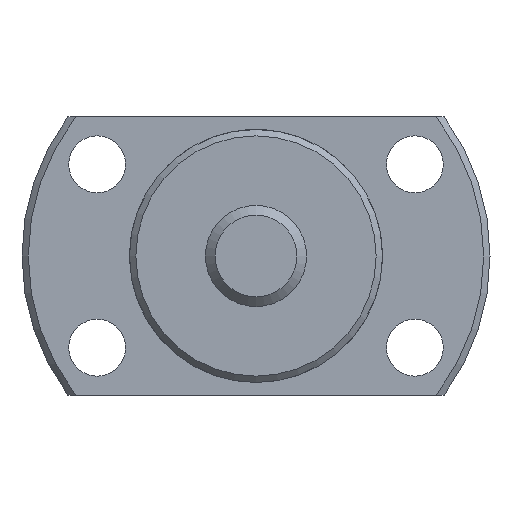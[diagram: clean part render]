
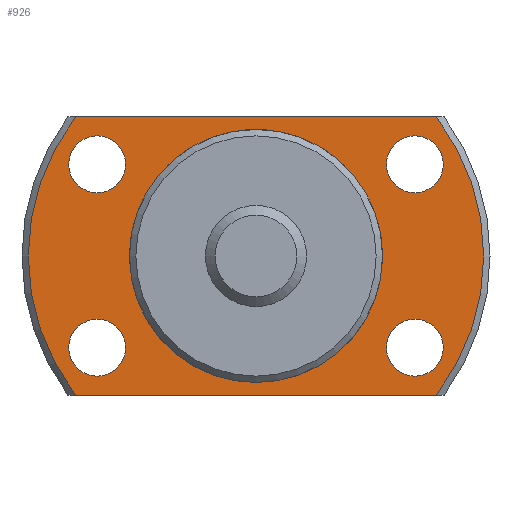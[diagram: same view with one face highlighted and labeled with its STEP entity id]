
A CAD part, left-side view. The second image highlights one B-rep face of the part: STEP entity #926.
In plain terms, the highlighted planar face has unit normal (-1, 0, 0).
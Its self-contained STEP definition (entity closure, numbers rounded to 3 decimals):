
#103=LINE('',#1617,#145);
#104=LINE('',#1621,#146);
#145=VECTOR('',#1286,1000.);
#146=VECTOR('',#1289,1000.);
#270=ORIENTED_EDGE('',*,*,#473,.T.);
#271=ORIENTED_EDGE('',*,*,#474,.T.);
#272=ORIENTED_EDGE('',*,*,#475,.T.);
#273=ORIENTED_EDGE('',*,*,#476,.T.);
#274=ORIENTED_EDGE('',*,*,#462,.F.);
#275=ORIENTED_EDGE('',*,*,#477,.F.);
#276=ORIENTED_EDGE('',*,*,#478,.F.);
#277=ORIENTED_EDGE('',*,*,#479,.F.);
#278=ORIENTED_EDGE('',*,*,#456,.T.);
#456=EDGE_CURVE('',#566,#566,#636,.T.);
#462=EDGE_CURVE('',#571,#572,#639,.T.);
#473=EDGE_CURVE('',#581,#581,#645,.T.);
#474=EDGE_CURVE('',#582,#582,#646,.T.);
#475=EDGE_CURVE('',#583,#583,#647,.T.);
#476=EDGE_CURVE('',#584,#584,#648,.T.);
#477=EDGE_CURVE('',#585,#571,#103,.T.);
#478=EDGE_CURVE('',#586,#585,#649,.T.);
#479=EDGE_CURVE('',#572,#586,#104,.T.);
#566=VERTEX_POINT('',#1560);
#571=VERTEX_POINT('',#1574);
#572=VERTEX_POINT('',#1576);
#581=VERTEX_POINT('',#1610);
#582=VERTEX_POINT('',#1612);
#583=VERTEX_POINT('',#1614);
#584=VERTEX_POINT('',#1616);
#585=VERTEX_POINT('',#1618);
#586=VERTEX_POINT('',#1620);
#636=CIRCLE('',#1041,9.85);
#639=CIRCLE('',#1045,18.);
#645=CIRCLE('',#1056,2.25);
#646=CIRCLE('',#1057,2.25);
#647=CIRCLE('',#1058,2.25);
#648=CIRCLE('',#1059,2.25);
#649=CIRCLE('',#1060,18.);
#713=EDGE_LOOP('',(#270));
#714=EDGE_LOOP('',(#271));
#715=EDGE_LOOP('',(#272));
#716=EDGE_LOOP('',(#273));
#717=EDGE_LOOP('',(#274,#275,#276,#277));
#718=EDGE_LOOP('',(#278));
#813=FACE_BOUND('',#713,.T.);
#814=FACE_BOUND('',#714,.T.);
#815=FACE_BOUND('',#715,.T.);
#816=FACE_BOUND('',#716,.T.);
#817=FACE_BOUND('',#717,.T.);
#818=FACE_BOUND('',#718,.T.);
#877=PLANE('',#1055);
#926=ADVANCED_FACE('',(#813,#814,#815,#816,#817,#818),#877,.F.);
#1041=AXIS2_PLACEMENT_3D('',#1559,#1244,#1245);
#1045=AXIS2_PLACEMENT_3D('',#1575,#1254,#1255);
#1055=AXIS2_PLACEMENT_3D('',#1608,#1276,#1277);
#1056=AXIS2_PLACEMENT_3D('',#1609,#1278,#1279);
#1057=AXIS2_PLACEMENT_3D('',#1611,#1280,#1281);
#1058=AXIS2_PLACEMENT_3D('',#1613,#1282,#1283);
#1059=AXIS2_PLACEMENT_3D('',#1615,#1284,#1285);
#1060=AXIS2_PLACEMENT_3D('',#1619,#1287,#1288);
#1244=DIRECTION('',(1.,0.,0.));
#1245=DIRECTION('',(0.,0.,-1.));
#1254=DIRECTION('',(1.,0.,0.));
#1255=DIRECTION('',(0.,0.,-1.));
#1276=DIRECTION('',(1.,0.,0.));
#1277=DIRECTION('',(0.,0.,-1.));
#1278=DIRECTION('',(1.,0.,0.));
#1279=DIRECTION('',(0.,0.,-1.));
#1280=DIRECTION('',(1.,0.,0.));
#1281=DIRECTION('',(0.,0.,-1.));
#1282=DIRECTION('',(1.,0.,0.));
#1283=DIRECTION('',(0.,0.,-1.));
#1284=DIRECTION('',(1.,0.,0.));
#1285=DIRECTION('',(0.,0.,-1.));
#1286=DIRECTION('',(0.,1.,0.));
#1287=DIRECTION('',(1.,0.,0.));
#1288=DIRECTION('',(0.,0.,-1.));
#1289=DIRECTION('',(0.,-1.,0.));
#1559=CARTESIAN_POINT('',(19.,0.,0.));
#1560=CARTESIAN_POINT('',(19.,0.,-9.85));
#1574=CARTESIAN_POINT('',(19.,14.248,-11.));
#1575=CARTESIAN_POINT('',(19.,0.,0.));
#1576=CARTESIAN_POINT('',(19.,14.248,11.));
#1608=CARTESIAN_POINT('',(19.,9.85,0.));
#1609=CARTESIAN_POINT('',(19.,-12.557,-7.25));
#1610=CARTESIAN_POINT('',(19.,-12.557,-9.5));
#1611=CARTESIAN_POINT('',(19.,-12.557,7.25));
#1612=CARTESIAN_POINT('',(19.,-12.557,5.));
#1613=CARTESIAN_POINT('',(19.,12.557,-7.25));
#1614=CARTESIAN_POINT('',(19.,12.557,-9.5));
#1615=CARTESIAN_POINT('',(19.,12.557,7.25));
#1616=CARTESIAN_POINT('',(19.,12.557,5.));
#1617=CARTESIAN_POINT('',(19.,-23.5,-11.));
#1618=CARTESIAN_POINT('',(19.,-14.248,-11.));
#1619=CARTESIAN_POINT('',(19.,0.,0.));
#1620=CARTESIAN_POINT('',(19.,-14.248,11.));
#1621=CARTESIAN_POINT('',(19.,23.5,11.));
